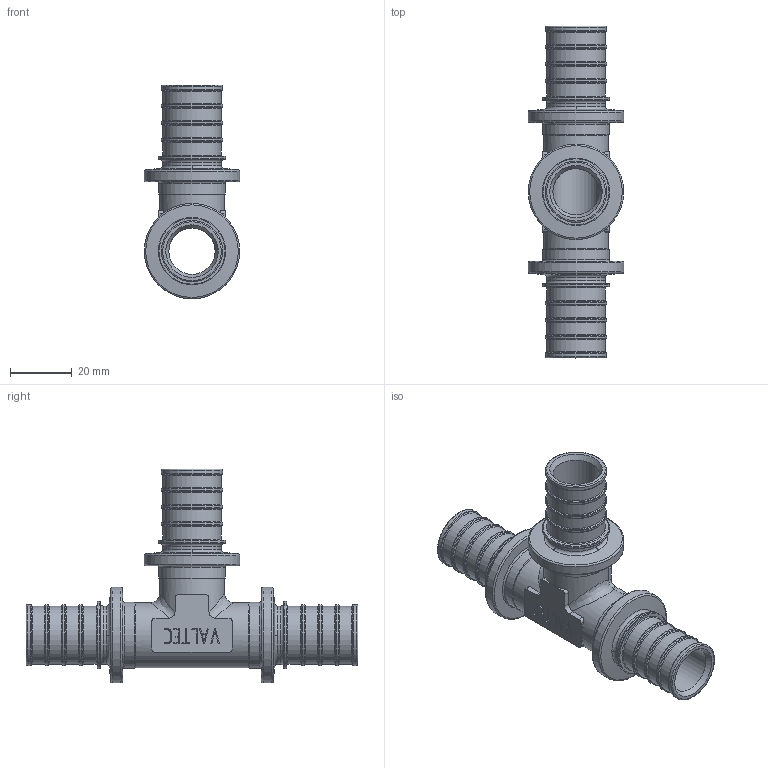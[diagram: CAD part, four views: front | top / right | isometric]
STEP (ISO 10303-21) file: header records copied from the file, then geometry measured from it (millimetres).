
FILE_DESCRIPTION(('STEP AP203'), '1');
FILE_NAME('覆.752241.005 - VTm.431.G.252525 秮鍣. 縺鳱', '', ('UNSPECIFIED'), ('UNSPECIFIED'), 'C3D Converter', 'C3D Toolkit', '');
FILE_SCHEMA(('CONFIG_CONTROL_DESIGN'));
Length unit declared in the file: millimetre
Products named in the file (1): ВР.752241.005
Bounding box: 30.9 x 107.5 x 69.2 mm (x, y, z)
Volume: 26005.5 mm3; surface area: 20424.6 mm2
Topology: 1 solids, 1 shells, 405 faces, 1044 edges, 663 vertices
Faces by surface type: extrusion 142, plane 124, torus 72, cylinder 56, cone 9, bspline 2
Full cylindrical faces by diameter (mm): 15 x2, 18.8 x15, 19.8 x12, 21 x2, 21.4 x3, 21.8 x3, 30.9 x3
Entity records: 15901 total; most frequent: CARTESIAN_POINT 3735, ORIENTED_EDGE 1854, DIRECTION 1450, EDGE_CURVE 927, VERTEX_POINT 663, VECTOR 582, EDGE_LOOP 548, B_SPLINE_CURVE_WITH_KNOTS 454
